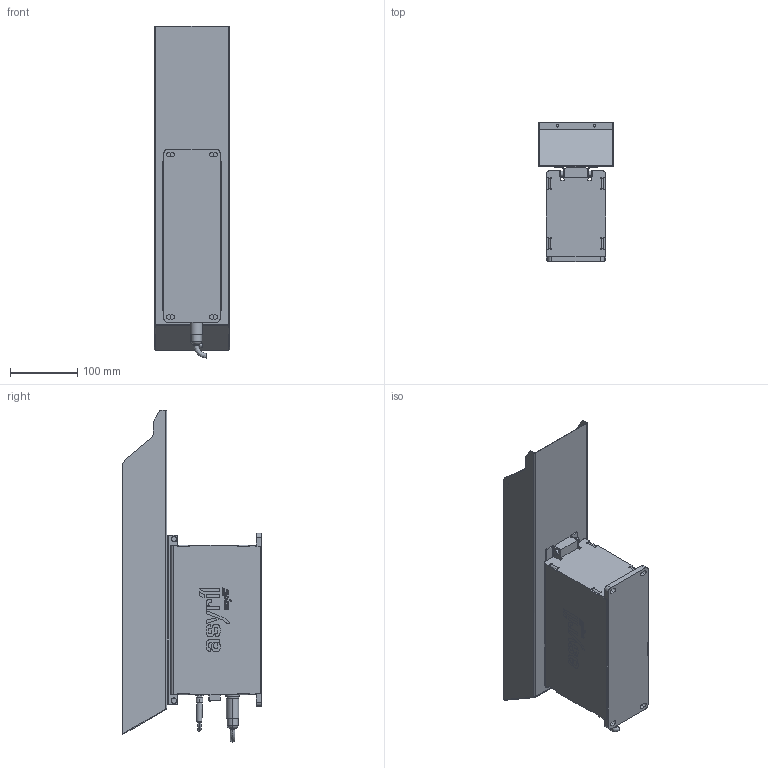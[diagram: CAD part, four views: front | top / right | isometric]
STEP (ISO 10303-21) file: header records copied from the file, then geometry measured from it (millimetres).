
FILE_DESCRIPTION (( 'STEP AP214' ), '1' );
FILE_NAME ('Asyril_ASYFILL_S_2L.STEP', '2023-07-05T08:23:38', ( '%MACHINENAME%' ), ( 'CPA-GROUP.LOCAL' ), 'SwSTEP 2.0', 'SolidWorks 2019', '' );
FILE_SCHEMA (( 'AUTOMOTIVE_DESIGN' ));
Length unit declared in the file: millimetre
Products named in the file (5): Asyril_2 LITER ASYFILL CONTAINER_000.105.686_(option); Asyril_FEMALE STRAIGHT 4P Xm M08 MOLDED CABLE_XXX.XXX.XXX_(option); Asyril_ASYFILL S_000.106.043; Asyril_ASYFILL_S_2L; Asyril_FEMALE STRAIGHT 5P 5m M16 POWER CABLE_900.006.215_(option)-1
Assembly tree (4 placements, depth 2):
  Asyril_ASYFILL_S_2L
    Asyril_ASYFILL S_000.106.043
    Asyril_2 LITER ASYFILL CONTAINER_000.105.686_(option)
    Asyril_FEMALE STRAIGHT 5P 5m M16 POWER CABLE_900.006.215_(option)-1
    Asyril_FEMALE STRAIGHT 4P Xm M08 MOLDED CABLE_XXX.XXX.XXX_(option)
Bounding box: 112 x 207.22 x 495.11 mm (x, y, z)
Volume: 2847151.2 mm3; surface area: 409289.7 mm2
Topology: 38 solids, 39 shells, 913 faces, 2299 edges, 1488 vertices
Faces by surface type: plane 478, cylinder 228, bspline 169, cone 17, torus 13, sphere 8
Entity records: 31824 total; most frequent: CARTESIAN_POINT 8010, ORIENTED_EDGE 4546, DIRECTION 3797, EDGE_CURVE 2273, VERTEX_POINT 1480, VECTOR 1363, LINE 1363, AXIS2_PLACEMENT_3D 1217
